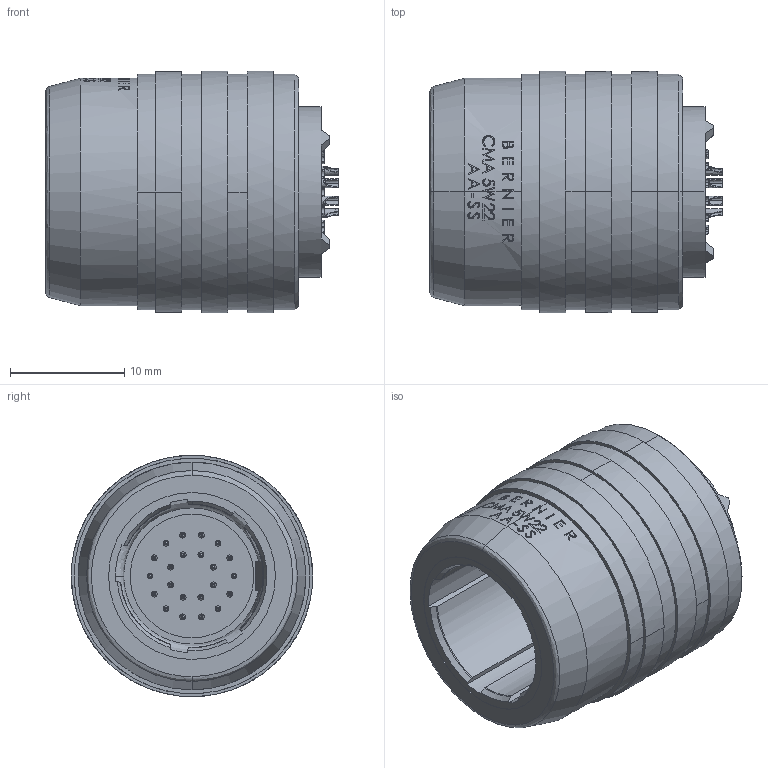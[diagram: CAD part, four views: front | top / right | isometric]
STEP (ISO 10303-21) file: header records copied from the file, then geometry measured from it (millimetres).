
FILE_DESCRIPTION (( 'STEP AP214' ), '1' );
FILE_NAME ('CMA5W22.STEP', '2023-11-13T08:40:32', ( '' ), ( '' ), 'SwSTEP 2.0', 'SolidWorks 2021', '' );
FILE_SCHEMA (( 'AUTOMOTIVE_DESIGN' ));
Length unit declared in the file: millimetre
Products named in the file (1): CMA5W22
Bounding box: 25.54 x 21.08 x 21.08 mm (x, y, z)
Surface area: 4261.1 mm2 (no closed solid volume)
Topology: 0 solids, 1 shells, 773 faces, 2165 edges, 1373 vertices
Faces by surface type: bspline 550, plane 223
Entity records: 42501 total; most frequent: CARTESIAN_POINT 22281, ORIENTED_EDGE 4094, EDGE_CURVE 2069, DIRECTION 1953, VERTEX_POINT 1373, EDGE_LOOP 859, B_SPLINE_CURVE_WITH_KNOTS 825, FACE_OUTER_BOUND 773
